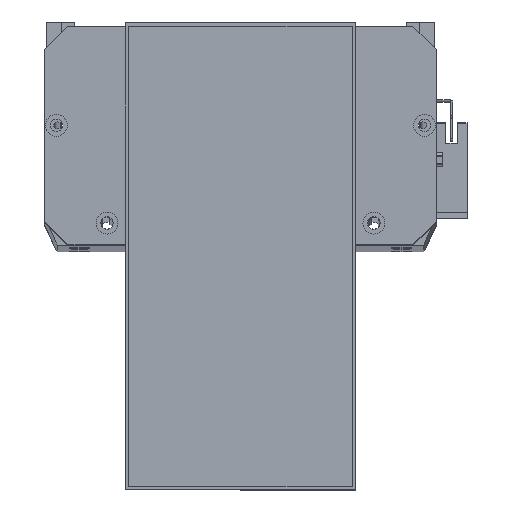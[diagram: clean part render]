
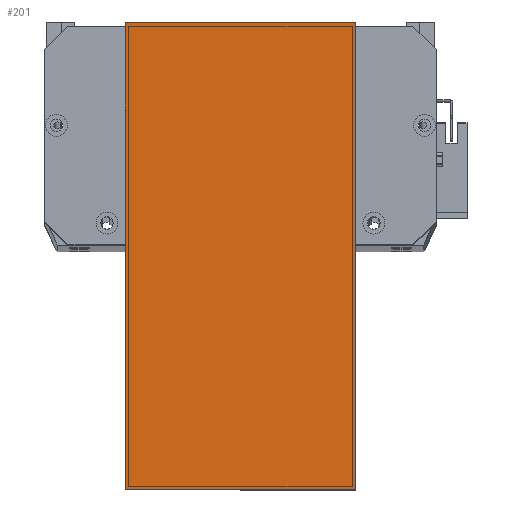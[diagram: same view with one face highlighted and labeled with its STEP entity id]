
A CAD part, top view. The second image highlights one B-rep face of the part: STEP entity #201.
In plain terms, the highlighted planar face has unit normal (0, 0, 1) as drawn and (0, 0, -1) by its records, which use the part's own axes.
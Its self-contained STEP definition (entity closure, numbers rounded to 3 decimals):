
#196 = CARTESIAN_POINT ( 'NONE',  ( 0., 0., 0. ) ) ;
#201 = ADVANCED_FACE ( 'NONE', ( #11975 ), #14224, .T. ) ;
#1850 = ORIENTED_EDGE ( 'NONE', *, *, #2139, .F. ) ;
#2013 = VECTOR ( 'NONE', #14147, 1000. ) ;
#2139 = EDGE_CURVE ( 'NONE', #28199, #6432, #2756, .T. ) ;
#2756 = LINE ( 'NONE', #7297, #2013 ) ;
#2926 = CARTESIAN_POINT ( 'NONE',  ( -12., 19.5, 0. ) ) ;
#3095 = EDGE_CURVE ( 'NONE', #6432, #13104, #25064, .T. ) ;
#3947 = CARTESIAN_POINT ( 'NONE',  ( 0., 119.5, 0. ) ) ;
#4268 = VECTOR ( 'NONE', #21500, 1000. ) ;
#5139 = CARTESIAN_POINT ( 'NONE',  ( -12., 119.5, 0. ) ) ;
#5146 = ORIENTED_EDGE ( 'NONE', *, *, #26678, .F. ) ;
#6432 = VERTEX_POINT ( 'NONE', #27068 ) ;
#7173 = VECTOR ( 'NONE', #10110, 1000. ) ;
#7297 = CARTESIAN_POINT ( 'NONE',  ( 0., 0., 0. ) ) ;
#7859 = LINE ( 'NONE', #10234, #19459 ) ;
#9772 = CARTESIAN_POINT ( 'NONE',  ( 203., 119.5, 0. ) ) ;
#10110 = DIRECTION ( 'NONE',  ( 1., 0., 0. ) ) ;
#10234 = CARTESIAN_POINT ( 'NONE',  ( 203., 0., 0. ) ) ;
#10299 = AXIS2_PLACEMENT_3D ( 'NONE', #196, #13919, #14031 ) ;
#11003 = ORIENTED_EDGE ( 'NONE', *, *, #3095, .F. ) ;
#11975 = FACE_OUTER_BOUND ( 'NONE', #28376, .T. ) ;
#12522 = DIRECTION ( 'NONE',  ( 0., 1., 0. ) ) ;
#13104 = VERTEX_POINT ( 'NONE', #16205 ) ;
#13919 = DIRECTION ( 'NONE',  ( 0., 0., -1. ) ) ;
#14031 = DIRECTION ( 'NONE',  ( -1., 0., 0. ) ) ;
#14072 = EDGE_CURVE ( 'NONE', #28199, #27731, #22242, .T. ) ;
#14147 = DIRECTION ( 'NONE',  ( 0., -1., 0. ) ) ;
#14224 = PLANE ( 'NONE',  #10299 ) ;
#16205 = CARTESIAN_POINT ( 'NONE',  ( 203., 19.5, 0. ) ) ;
#18933 = ORIENTED_EDGE ( 'NONE', *, *, #14072, .T. ) ;
#19459 = VECTOR ( 'NONE', #12522, 1000. ) ;
#21500 = DIRECTION ( 'NONE',  ( 1., 0., 0. ) ) ;
#22242 = LINE ( 'NONE', #5139, #4268 ) ;
#25064 = LINE ( 'NONE', #2926, #7173 ) ;
#26678 = EDGE_CURVE ( 'NONE', #13104, #27731, #7859, .T. ) ;
#27068 = CARTESIAN_POINT ( 'NONE',  ( 0., 19.5, 0. ) ) ;
#27731 = VERTEX_POINT ( 'NONE', #9772 ) ;
#28199 = VERTEX_POINT ( 'NONE', #3947 ) ;
#28376 = EDGE_LOOP ( 'NONE', ( #11003, #1850, #18933, #5146 ) ) ;
